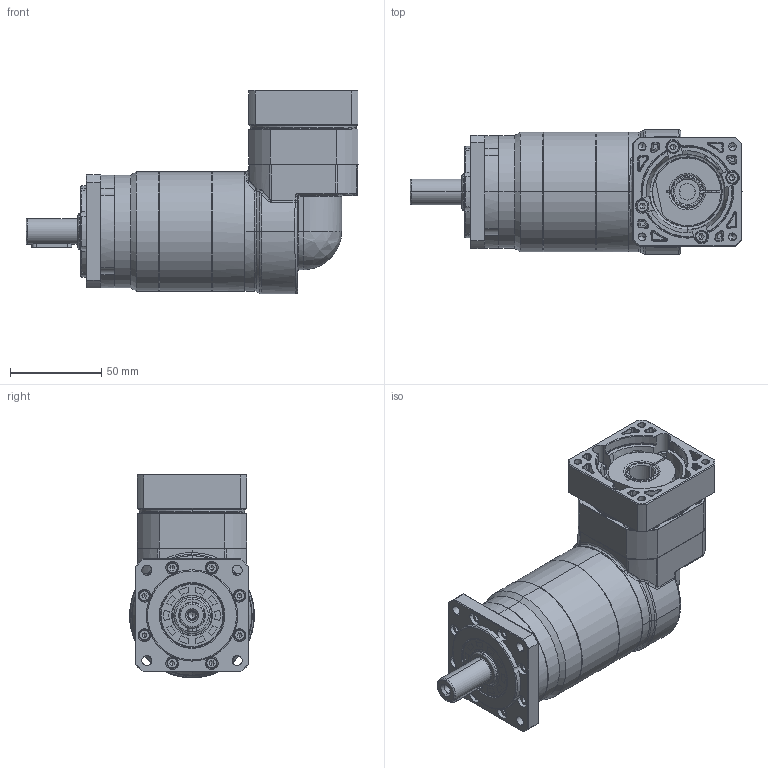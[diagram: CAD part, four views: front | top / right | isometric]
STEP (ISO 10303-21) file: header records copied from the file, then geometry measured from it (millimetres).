
FILE_DESCRIPTION (( 'STEP AP214' ), '1' );
FILE_NAME ('FBR060-L2-S2-P1 14-50-70-M5-33.STEP', '2025-02-15T07:18:04', ( '微软用户' ), ( '微软中国' ), 'SwSTEP 2.0', 'SolidWorks 2021', '' );
FILE_SCHEMA (( 'AUTOMOTIVE_DESIGN' ));
Length unit declared in the file: millimetre
Products named in the file (4): EVT060D-L2-8-38.1-66.7-M4-33.STEP; FBR060D-L2-14-50-70-M5-33.STEP; 3.EVT064F_________step_stp_stp.stp.STEP; FBR060-L2-S2-P1 14-50-70-M5-33
Assembly tree (7 placements, depth 2):
  FBR060-L2-S2-P1 14-50-70-M5-33
    FBR060D-L2-14-50-70-M5-33.STEP
    3.EVT064F_________step_stp_stp.stp.STEP
    EVT060D-L2-8-38.1-66.7-M4-33.STEP  x5
Bounding box: 182 x 68.5 x 111.75 mm (x, y, z)
Volume: 92087 mm3; surface area: 134399.9 mm2
Topology: 1 solids, 45 shells, 1792 faces, 4480 edges, 2782 vertices
Faces by surface type: cylinder 554, plane 498, bspline 424, cone 305, torus 11
Entity records: 81421 total; most frequent: CARTESIAN_POINT 45473, ORIENTED_EDGE 8042, DIRECTION 6520, EDGE_CURVE 4054, AXIS2_PLACEMENT_3D 2592, VERTEX_POINT 2558, EDGE_LOOP 1837, ADVANCED_FACE 1660
